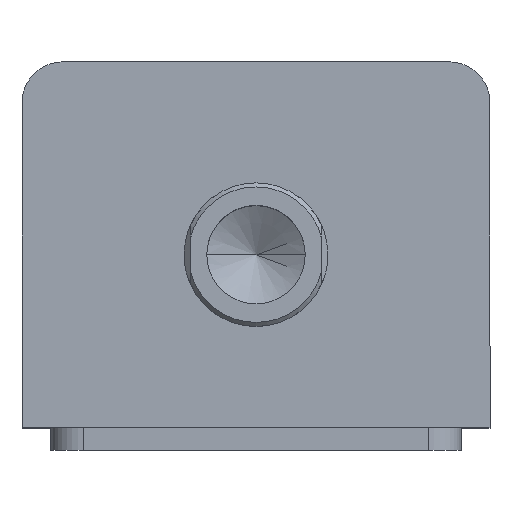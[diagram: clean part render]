
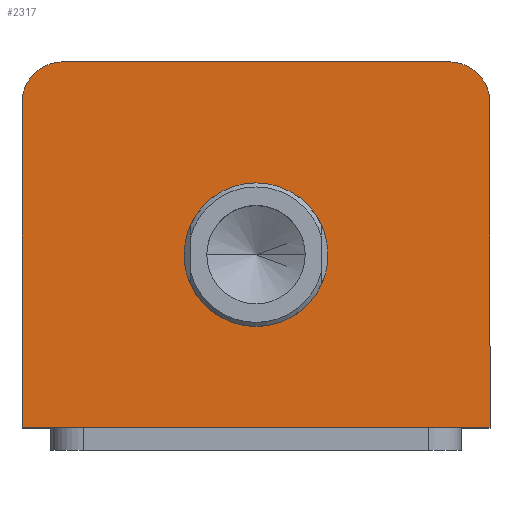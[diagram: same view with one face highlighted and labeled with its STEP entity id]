
A CAD part, top view. The second image highlights one B-rep face of the part: STEP entity #2317.
In plain terms, the highlighted planar face has unit normal (0, 0, 1).
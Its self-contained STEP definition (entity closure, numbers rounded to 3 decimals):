
#226 = DIRECTION ( 'NONE',  ( 0., 0., 1. ) ) ;
#227 = DIRECTION ( 'NONE',  ( 1., 0., 0. ) ) ;
#374 = DIRECTION ( 'NONE',  ( 1., 0., 0. ) ) ;
#377 = CARTESIAN_POINT ( 'NONE',  ( -57., -44.5, 132. ) ) ;
#389 = CARTESIAN_POINT ( 'NONE',  ( 57., 44.5, 132. ) ) ;
#390 = DIRECTION ( 'NONE',  ( 0., 1., 0. ) ) ;
#476 = CARTESIAN_POINT ( 'NONE',  ( 0., -2.5, 132. ) ) ;
#477 = DIRECTION ( 'NONE',  ( 0., 0., 1. ) ) ;
#478 = DIRECTION ( 'NONE',  ( 1., 0., 0. ) ) ;
#479 = CARTESIAN_POINT ( 'NONE',  ( 0., -2.5, 132. ) ) ;
#480 = DIRECTION ( 'NONE',  ( 0., 0., 1. ) ) ;
#481 = DIRECTION ( 'NONE',  ( 1., 0., 0. ) ) ;
#581 = CARTESIAN_POINT ( 'NONE',  ( 0., 0., 132. ) ) ;
#587 = PLANE ( 'NONE',  #3351 ) ;
#727 = AXIS2_PLACEMENT_3D ( 'NONE', #476, #477, #478 ) ;
#729 = AXIS2_PLACEMENT_3D ( 'NONE', #479, #480, #481 ) ;
#873 = FACE_BOUND ( 'NONE', #3040, .T. ) ;
#878 = FACE_OUTER_BOUND ( 'NONE', #3045, .T. ) ;
#994 = CARTESIAN_POINT ( 'NONE',  ( -57., -44.5, 132. ) ) ;
#995 = CARTESIAN_POINT ( 'NONE',  ( -17.5, -2.5, 132. ) ) ;
#996 = CARTESIAN_POINT ( 'NONE',  ( 17.5, -2.5, 132. ) ) ;
#999 = CARTESIAN_POINT ( 'NONE',  ( 57., -44.5, 132. ) ) ;
#1015 = CARTESIAN_POINT ( 'NONE',  ( 57., 34.5, 132. ) ) ;
#1027 = CARTESIAN_POINT ( 'NONE',  ( 47., 44.5, 132. ) ) ;
#1038 = VERTEX_POINT ( 'NONE', #995 ) ;
#1039 = VERTEX_POINT ( 'NONE', #994 ) ;
#1040 = VERTEX_POINT ( 'NONE', #996 ) ;
#1042 = VERTEX_POINT ( 'NONE', #999 ) ;
#1059 = VERTEX_POINT ( 'NONE', #1015 ) ;
#1071 = VERTEX_POINT ( 'NONE', #1027 ) ;
#1074 = VERTEX_POINT ( 'NONE', #2983 ) ;
#1082 = VERTEX_POINT ( 'NONE', #2211 ) ;
#1301 = CIRCLE ( 'NONE', #727, 17.5 ) ;
#1304 = CIRCLE ( 'NONE', #729, 17.5 ) ;
#1838 = ORIENTED_EDGE ( 'NONE', *, *, #3591, .F. ) ;
#1839 = ORIENTED_EDGE ( 'NONE', *, *, #3589, .F. ) ;
#1840 = ORIENTED_EDGE ( 'NONE', *, *, #3276, .T. ) ;
#1841 = ORIENTED_EDGE ( 'NONE', *, *, #3395, .T. ) ;
#1842 = ORIENTED_EDGE ( 'NONE', *, *, #3399, .T. ) ;
#1843 = ORIENTED_EDGE ( 'NONE', *, *, #3186, .T. ) ;
#1844 = ORIENTED_EDGE ( 'NONE', *, *, #3215, .T. ) ;
#1845 = ORIENTED_EDGE ( 'NONE', *, *, #3360, .T. ) ;
#2211 = CARTESIAN_POINT ( 'NONE',  ( -57., 34.5, 132. ) ) ;
#2317 = ADVANCED_FACE ( 'NONE', ( #873, #878 ), #587, .T. ) ;
#2531 = CARTESIAN_POINT ( 'NONE',  ( -57., 44.5, 132. ) ) ;
#2532 = DIRECTION ( 'NONE',  ( -1., 0., 0. ) ) ;
#2554 = CARTESIAN_POINT ( 'NONE',  ( 47., 34.5, 132. ) ) ;
#2555 = DIRECTION ( 'NONE',  ( 0., 0., 1. ) ) ;
#2556 = DIRECTION ( 'NONE',  ( 1., 0., 0. ) ) ;
#2607 = CARTESIAN_POINT ( 'NONE',  ( -47., 34.5, 132. ) ) ;
#2609 = DIRECTION ( 'NONE',  ( 0., 0., 1. ) ) ;
#2611 = DIRECTION ( 'NONE',  ( 1., 0., 0. ) ) ;
#2628 = CARTESIAN_POINT ( 'NONE',  ( -57., 44.5, 132. ) ) ;
#2630 = DIRECTION ( 'NONE',  ( 0., -1., 0. ) ) ;
#2795 = LINE ( 'NONE', #377, #2799 ) ;
#2799 = VECTOR ( 'NONE', #374, 1000. ) ;
#2808 = LINE ( 'NONE', #389, #2811 ) ;
#2811 = VECTOR ( 'NONE', #390, 1000. ) ;
#2847 = LINE ( 'NONE', #2531, #2850 ) ;
#2850 = VECTOR ( 'NONE', #2532, 1000. ) ;
#2864 = CIRCLE ( 'NONE', #3235, 10. ) ;
#2881 = CIRCLE ( 'NONE', #3227, 10. ) ;
#2887 = LINE ( 'NONE', #2628, #2890 ) ;
#2890 = VECTOR ( 'NONE', #2630, 1000. ) ;
#2983 = CARTESIAN_POINT ( 'NONE',  ( -47., 44.5, 132. ) ) ;
#3040 = EDGE_LOOP ( 'NONE', ( #1838, #1839 ) ) ;
#3045 = EDGE_LOOP ( 'NONE', ( #1840, #1841, #1842, #1843, #1844, #1845 ) ) ;
#3186 = EDGE_CURVE ( 'NONE', #1039, #1042, #2795, .T. ) ;
#3215 = EDGE_CURVE ( 'NONE', #1042, #1059, #2808, .T. ) ;
#3227 = AXIS2_PLACEMENT_3D ( 'NONE', #2607, #2609, #2611 ) ;
#3235 = AXIS2_PLACEMENT_3D ( 'NONE', #2554, #2555, #2556 ) ;
#3276 = EDGE_CURVE ( 'NONE', #1071, #1074, #2847, .T. ) ;
#3351 = AXIS2_PLACEMENT_3D ( 'NONE', #581, #226, #227 ) ;
#3360 = EDGE_CURVE ( 'NONE', #1059, #1071, #2864, .T. ) ;
#3395 = EDGE_CURVE ( 'NONE', #1074, #1082, #2881, .T. ) ;
#3399 = EDGE_CURVE ( 'NONE', #1082, #1039, #2887, .T. ) ;
#3589 = EDGE_CURVE ( 'NONE', #1038, #1040, #1301, .T. ) ;
#3591 = EDGE_CURVE ( 'NONE', #1040, #1038, #1304, .T. ) ;
